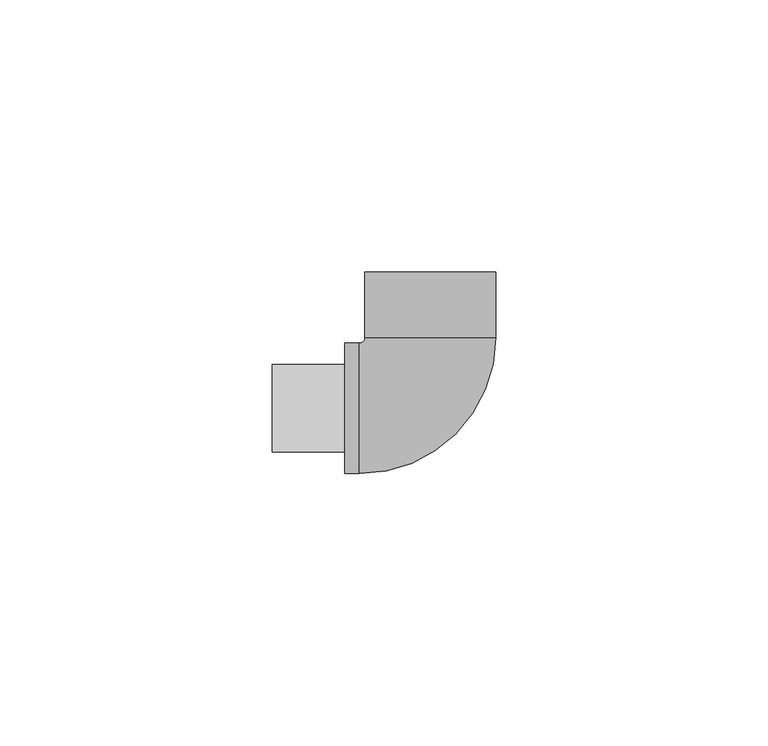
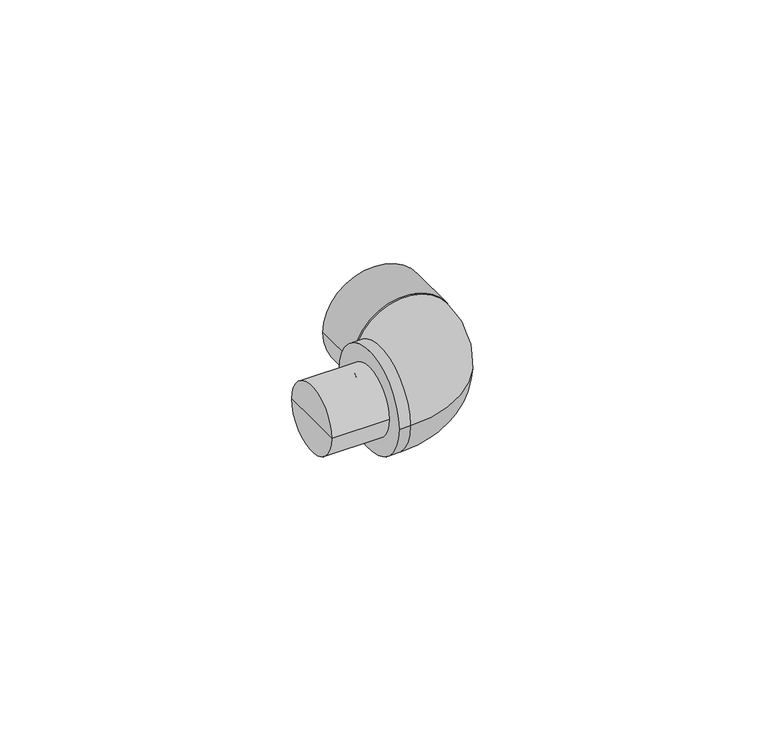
"""IFC4 building model written with IfcOpenShell, lengths in millimetres: pipe fitting geometry, KAN-therm PP kolano nyplowe 45,90 : KAN-therm PP kolano nyplowe 45,90."""

import ifcopenshell
import ifcopenshell.guid

model = None  # the IFC model being written
_history = None  # IfcOwnerHistory: only IFC2X3 demands one
_inside = {}  # id of a spatial element -> (the spatial element, [elements in it])
_under = {}  # id of a project, library or spatial element -> (it, [spatial elements below it])
_declared = {}  # id of a project -> (the project, [libraries it declares])
_typed = {}  # id of a type object -> (the type object, [elements of that type])
_made_of = {}  # id of a material, layer set ... -> (it, [elements and type objects made of it])


def new_model(schema):
    """Start an empty IFC model of exactly this schema.

    Asked for "IFC4X3", IfcOpenShell would pick the latest addendum, in which some entities
    have other attributes; the version numbers below select the first issue.
    IFC2X3 requires an IfcOwnerHistory on every rooted entity: one is made here for all.
    """
    global model, _history
    if schema == "IFC4X3":
        model = ifcopenshell.file(schema_version=(4, 3, 0, 0))
    else:
        model = ifcopenshell.file(schema=schema)
    _inside.clear()
    _under.clear()
    _declared.clear()
    _typed.clear()
    _made_of.clear()
    _history = None
    if model.schema == "IFC2X3":
        org = make("IfcOrganization", Name="unknown")
        user = make(
            "IfcPersonAndOrganization",
            ThePerson=make("IfcPerson", FamilyName="unknown"),
            TheOrganization=org,
        )
        app = make(
            "IfcApplication",
            ApplicationDeveloper=org,
            Version="unknown",
            ApplicationFullName="unknown",
            ApplicationIdentifier="unknown",
        )
        _history = make(
            "IfcOwnerHistory",
            OwningUser=user,
            OwningApplication=app,
            ChangeAction="ADDED",
            CreationDate=0,
        )
    return model


def make(cls, **values):
    """One entity of the class cls with the attributes given. An attribute that is None is left unset."""
    return model.create_entity(
        cls, **{name: value for name, value in values.items() if value is not None}
    )


def rooted(cls, **values):
    """An entity with a GlobalId (a new one), such as an element, a storey or a relation."""
    return make(cls, GlobalId=ifcopenshell.guid.new(), OwnerHistory=_history, **values)


def si_unit(unit_type, name, prefix=None):
    """IfcSIUnit, for example si_unit("LENGTHUNIT", "METRE", prefix="MILLI")."""
    return make("IfcSIUnit", UnitType=unit_type, Prefix=prefix, Name=name)


def assignment(units):
    """IfcUnitAssignment: the units of a project."""
    return None if units is None else make("IfcUnitAssignment", Units=units)


def point(xyz):
    """IfcCartesianPoint."""
    return None if xyz is None else make("IfcCartesianPoint", Coordinates=xyz)


def direction(xyz):
    """IfcDirection."""
    return None if xyz is None else make("IfcDirection", DirectionRatios=xyz)


def frame(location, z_axis=None, x_axis=None):
    """IfcAxis2Placement3D, a coordinate frame: its origin and axes. An axis left out is left unset."""
    return make(
        "IfcAxis2Placement3D",
        Location=point(location),
        Axis=direction(z_axis),
        RefDirection=direction(x_axis),
    )


def origin():
    """The frame at (0, 0, 0) with its axes left unset."""
    return frame((0.0, 0.0, 0.0))


def place(relative_to, where):
    """IfcLocalPlacement: puts the frame where relative to a parent placement (None: the world)."""
    return make(
        "IfcLocalPlacement", PlacementRelTo=relative_to, RelativePlacement=where
    )


def context(
    kind, dimensions, precision=None, world=None, true_north=None, identifier=None
):
    """IfcGeometricRepresentationContext, for example the 3D "Model" context."""
    return make(
        "IfcGeometricRepresentationContext",
        ContextIdentifier=identifier,
        ContextType=kind,
        CoordinateSpaceDimension=dimensions,
        Precision=precision,
        WorldCoordinateSystem=world,
        TrueNorth=true_north,
    )


def project(units=None, contexts=None):
    """IfcProject with its units and contexts."""
    return rooted(
        "IfcProject",
        Name="project",
        RepresentationContexts=contexts,
        UnitsInContext=assignment(units),
    )


def spatial(cls, under=None, at=None, **own):
    """A site, building, storey or space (cls), placed at a placement, below another one or the project."""
    s = rooted(cls, ObjectPlacement=at, **own)
    if under is not None:
        _under.setdefault(under.id(), (under, []))[1].append(s)
    return s


def circle_curve(where, radius):
    """IfcCircle in the frame where."""
    return make("IfcCircle", Position=where, Radius=radius)


def ellipse_curve(where, semi_axis1, semi_axis2):
    """IfcEllipse in the frame where."""
    return make(
        "IfcEllipse", Position=where, SemiAxis1=semi_axis1, SemiAxis2=semi_axis2
    )


def trimmed(basis, trim1, trim2, sense, master):
    """IfcTrimmedCurve: the piece of a basis curve between two trims."""
    return make(
        "IfcTrimmedCurve",
        BasisCurve=basis,
        Trim1=trim1,
        Trim2=trim2,
        SenseAgreement=sense,
        MasterRepresentation=master,
    )


def shape(context_of_items, identifier, shape_type, items):
    """IfcShapeRepresentation: the items that make up one representation, for example the "Body"."""
    return make(
        "IfcShapeRepresentation",
        ContextOfItems=context_of_items,
        RepresentationIdentifier=identifier,
        RepresentationType=shape_type,
        Items=items,
    )


def source(mapping_origin, context_of_items, identifier, shape_type, items):
    """IfcRepresentationMap: a shape defined once, which mapped items show again and again."""
    return make(
        "IfcRepresentationMap",
        MappingOrigin=mapping_origin,
        MappedRepresentation=shape(context_of_items, identifier, shape_type, items),
    )


def transform(
    local_origin,
    x_axis=None,
    y_axis=None,
    z_axis=None,
    scale=None,
    scale2=None,
    scale3=None,
    uniform=True,
):
    """IfcCartesianTransformationOperator3D, or its non-uniform kind. x_axis, y_axis, z_axis: its Axis1, 2, 3."""
    if uniform:
        return make(
            "IfcCartesianTransformationOperator3D",
            Axis1=direction(x_axis),
            Axis2=direction(y_axis),
            LocalOrigin=point(local_origin),
            Scale=scale,
            Axis3=direction(z_axis),
        )
    return make(
        "IfcCartesianTransformationOperator3DnonUniform",
        Axis1=direction(x_axis),
        Axis2=direction(y_axis),
        LocalOrigin=point(local_origin),
        Scale=scale,
        Axis3=direction(z_axis),
        Scale2=scale2,
        Scale3=scale3,
    )


def mapped(mapping_source, mapping_target):
    """IfcMappedItem: shows the shape of a source again, moved by a transform."""
    return make(
        "IfcMappedItem", MappingSource=mapping_source, MappingTarget=mapping_target
    )


def made_of(thing, what):
    """Note that an element or type object is made of a material, layer set ...; save() writes the relation."""
    if what is not None:
        _made_of.setdefault(what.id(), (what, []))[1].append(thing)
    return thing


def element(
    cls,
    number,
    at=None,
    inside=None,
    cuts=None,
    type_object=None,
    material=None,
    context=None,
    identifier="Body",
    shape_type=None,
    held_by="IfcProductDefinitionShape",
    body=None,
    shapes=None,
    **own,
):
    """One element of the class cls, such as IfcWall. Its Tag is "e" and its number.

    at: its placement. inside: the storey or other place that contains it. cuts: it is an
    opening in that element (IfcRelVoidsElement). A single representation is given by context,
    identifier, shape_type and body (its items); several are given by shapes. held_by: the class
    of the entity that holds the representations. save() writes the other relations.
    """
    e = rooted(cls, Tag="e%d" % number, ObjectPlacement=at, **own)
    if body is not None:
        shapes = [shape(context, identifier, shape_type, body)]
    if shapes is not None:
        e.Representation = make(held_by, Representations=shapes)
    if inside is not None:
        _inside.setdefault(inside.id(), (inside, []))[1].append(e)
    if cuts is not None:
        rooted(
            "IfcRelVoidsElement", RelatingBuildingElement=cuts, RelatedOpeningElement=e
        )
    if type_object is not None:
        _typed.setdefault(type_object.id(), (type_object, []))[1].append(e)
    return made_of(e, material)


def aggregate(whole, parts):
    """IfcRelAggregates: a whole, such as a stair, and the parts it consists of."""
    return rooted("IfcRelAggregates", RelatingObject=whole, RelatedObjects=parts)


def save(model, path):
    """Write the relations noted so far, then the file.

    IfcRelAggregates (storeys below a building ...), IfcRelContainedInSpatialStructure (elements
    in a storey), IfcRelDefinesByType, IfcRelAssociatesMaterial and IfcRelDeclares: one each for
    every whole, place, type object, material and project.
    """
    for whole, parts in _under.values():
        aggregate(whole, parts)
    for where, things in _inside.values():
        rooted(
            "IfcRelContainedInSpatialStructure",
            RelatedElements=things,
            RelatingStructure=where,
        )
    for kind, things in _typed.values():
        rooted("IfcRelDefinesByType", RelatedObjects=things, RelatingType=kind)
    for what, things in _made_of.values():
        rooted("IfcRelAssociatesMaterial", RelatedObjects=things, RelatingMaterial=what)
    for by, libraries in _declared.values():
        rooted("IfcRelDeclares", RelatingContext=by, RelatedDefinitions=libraries)
    model.write(path)


def plane_surface(at):
    """IfcPlane: the flat surface through the origin of the frame at, square to its z axis."""
    return make("IfcPlane", Position=at)


def cylinder_surface(at, radius):
    """IfcCylindricalSurface: all points at the distance radius from the z axis of the frame at."""
    return make("IfcCylindricalSurface", Position=at, Radius=radius)


def revolved_surface(curve, axis_point, axis_direction):
    """IfcSurfaceOfRevolution: the curve turned about the line through axis_point along axis_direction."""
    return make(
        "IfcSurfaceOfRevolution",
        SweptCurve=make("IfcArbitraryOpenProfileDef", ProfileType="CURVE", Curve=curve),
        AxisPosition=make("IfcAxis1Placement", Location=point(axis_point), Axis=direction(axis_direction)),
    )


def advanced_brep(points, edges, surfaces, faces):
    """IfcAdvancedBrep: a solid bounded by faces that lie on surfaces and meet in shared edges.

    An edge is (start, end): straight between two places in points (the first is 0);
    or (start, end, curve); or (start, end, curve, False) where it runs against its curve.
    A face is (place in surfaces, loops), or (place, loops, False) where it looks against
    its surface's normal. A loop lists edges by number (the first is 1), with a minus sign
    where the edge is run from its end to its start. The first loop is the outer one.
    """
    corners = [point(p) for p in points]
    vertices = [make("IfcVertexPoint", VertexGeometry=c) for c in corners]
    made = []
    for start, end, *more in edges:
        made.append(
            make(
                "IfcEdgeCurve",
                EdgeStart=vertices[start],
                EdgeEnd=vertices[end],
                EdgeGeometry=more[0] if more else make("IfcPolyline", Points=[corners[start], corners[end]]),
                SameSense=more[1] if len(more) > 1 else True,
            )
        )
    hull = []
    for where, loops, *sense in faces:
        bounds = []
        for j, loop in enumerate(loops):
            ring = [make("IfcOrientedEdge", EdgeElement=made[abs(k) - 1], Orientation=k > 0) for k in loop]
            bounds.append(
                make(
                    "IfcFaceOuterBound" if j == 0 else "IfcFaceBound",
                    Bound=make("IfcEdgeLoop", EdgeList=ring),
                    Orientation=True,
                )
            )
        hull.append(make("IfcAdvancedFace", Bounds=bounds, FaceSurface=surfaces[where], SameSense=sense[0] if sense else True))
    return make("IfcAdvancedBrep", Outer=make("IfcClosedShell", CfsFaces=hull))


def pipe_fitting_1866e0d2(model_context):
    return source(origin(), model_context, "Body", "AdvancedBrep", [
        advanced_brep(
        [(-29.0, 8.0, 0.0), (-29.0, -8.0, 0.0), (-29.0, 0.0, 0.0), (-15.7, 8.0, 0.0), (-15.7, -8.0, 0.0), (-15.7, 0.0, 0.0)],
        [
            (0, 1, circle_curve(frame((-29.0, 0.0, 0.0), z_axis=(-1.0, 0.0, 0.0), x_axis=(0.0, -1.0, 0.0)), 8.0)),
            (1, 2),
            (2, 0),
            (1, 0, circle_curve(frame((-29.0, 0.0, 0.0), z_axis=(-1.0, 0.0, 0.0), x_axis=(0.0, -1.0, 0.0)), 8.0)),
            (3, 4, circle_curve(frame((-15.7, 0.0, 0.0), z_axis=(-1.0, 0.0, 0.0), x_axis=(0.0, -1.0, 0.0)), 8.0)),
            (4, 1),
            (0, 3),
            (4, 3, circle_curve(frame((-15.7, 0.0, 0.0), z_axis=(-1.0, 0.0, 0.0), x_axis=(0.0, -1.0, 0.0)), 8.0)),
            (5, 4),
            (3, 5),
        ],
        [
            plane_surface(frame((-29.0, 0.0, 0.0), z_axis=(-1.0, 0.0, 0.0), x_axis=(0.0, -1.0, 0.0))),
            cylinder_surface(frame((2000.0, 0.0, 0.0), z_axis=(1.0, 0.0, 0.0), x_axis=(0.0, -1.0, 0.0)), 8.0),
            plane_surface(frame((-15.7, 0.0, 0.0), z_axis=(1.0, 0.0, 0.0), x_axis=(0.0, -1.0, 0.0))),
        ],
        [
            (0, [[1, 2, 3]]),
            (0, [[4, -3, -2]]),
            (1, [[5, 6, -1, 7]]),
            (1, [[8, -7, -4, -6]]),
            (2, [[9, -5, 10]]),
            (2, [[-10, -8, -9]]),
        ],
    ),
        advanced_brep(
        [(-12.0, 13.0, 0.0), (12.0, 13.0, 0.0), (0.0, 13.0, 0.0), (-12.0, 25.0, 0.0), (12.0, 25.0, 0.0), (0.0, 25.0, 0.0)],
        [
            (0, 1, circle_curve(frame((0.0, 13.0, 0.0), z_axis=(0.0, -1.0, 0.0), x_axis=(1.0, 0.0, 0.0)), 12.0)),
            (1, 2),
            (2, 0),
            (1, 0, circle_curve(frame((0.0, 13.0, 0.0), z_axis=(0.0, -1.0, 0.0), x_axis=(1.0, 0.0, 0.0)), 12.0)),
            (3, 4, circle_curve(frame((0.0, 25.0, 0.0), z_axis=(0.0, -1.0, 0.0), x_axis=(1.0, 0.0, 0.0)), 12.0)),
            (4, 1),
            (0, 3),
            (4, 3, circle_curve(frame((0.0, 25.0, 0.0), z_axis=(0.0, -1.0, 0.0), x_axis=(1.0, 0.0, 0.0)), 12.0)),
            (5, 4),
            (3, 5),
        ],
        [
            plane_surface(frame((0.0, 13.0, 0.0), z_axis=(0.0, -1.0, 0.0), x_axis=(1.0, 0.0, 0.0))),
            cylinder_surface(frame((0.0, 0.0, 0.0), z_axis=(0.0, 1.0, 0.0), x_axis=(1.0, 0.0, 0.0)), 12.0),
            plane_surface(frame((0.0, 25.0, 0.0), z_axis=(0.0, 1.0, 0.0), x_axis=(1.0, 0.0, 0.0))),
        ],
        [
            (0, [[1, 2, 3]]),
            (0, [[4, -3, -2]]),
            (1, [[5, 6, -1, 7]]),
            (1, [[8, -7, -4, -6]]),
            (2, [[9, -5, 10]]),
            (2, [[-10, -8, -9]]),
        ],
    ),
        advanced_brep(
        [(12.0, 13.0, 0.0), (-12.0, 13.0, 0.0), (-13.0, 12.0, 0.0), (-13.0, -12.0, 0.0), (-15.7, -12.0, 0.0), (-15.7, 12.0, 0.0)],
        [
            (0, 1, circle_curve(frame((0.0, 13.0, 0.0), z_axis=(0.0, 1.0, 0.0), x_axis=(-1.0, 0.0, 0.0)), 12.0)),
            (1, 0, circle_curve(frame((0.0, 13.0, 0.0), z_axis=(0.0, 1.0, 0.0), x_axis=(-1.0, 0.0, 0.0)), 12.0)),
            (1, 2, circle_curve(frame((-13.0, 13.0, 0.0), z_axis=(0.0, 0.0, -1.0), x_axis=(0.0, -1.0, 0.0)), 1.0)),
            (2, 3, circle_curve(frame((-13.0, 0.0, 0.0), z_axis=(1.0, 0.0, 0.0), x_axis=(0.0, 1.0, 0.0)), 12.0)),
            (3, 0, circle_curve(frame((-13.0, 13.0, 0.0), z_axis=(0.0, 0.0, 1.0), x_axis=(0.0, -1.0, 0.0)), 25.0)),
            (3, 2, circle_curve(frame((-13.0, 0.0, 0.0), z_axis=(1.0, 0.0, 0.0), x_axis=(0.0, 1.0, 0.0)), 12.0)),
            (4, 5, circle_curve(frame((-15.7, 0.0, 0.0), z_axis=(-1.0, 0.0, 0.0), x_axis=(0.0, 1.0, 0.0)), 12.0)),
            (5, 4, circle_curve(frame((-15.7, 0.0, 0.0), z_axis=(-1.0, 0.0, 0.0), x_axis=(0.0, 1.0, 0.0)), 12.0)),
            (4, 3),
            (2, 5),
        ],
        [
            plane_surface(frame((0.0, 13.0, 0.0), z_axis=(0.0, 1.0, 0.0), x_axis=(0.0, 0.0, 1.0))),
            revolved_surface(trimmed(ellipse_curve(frame((-13.0, 0.0, 0.0), z_axis=(-1.0, 0.0, 0.0), x_axis=(0.0, 1.0, 0.0)), 12.0, 12.0), [point((-13.0, -12.0, 0.0))], [point((-13.0, 12.0, 0.0))], True, "CARTESIAN"), (-13.0, 13.0, 0.0), (0.0, 0.0, 1.0)),
            revolved_surface(trimmed(ellipse_curve(frame((-13.0, 0.0, 0.0), z_axis=(-1.0, 0.0, 0.0), x_axis=(0.0, 1.0, 0.0)), 12.0, 12.0), [point((-13.0, 12.0, 0.0))], [point((-13.0, -12.0, 0.0))], True, "CARTESIAN"), (-13.0, 13.0, 0.0), (0.0, 0.0, 1.0)),
            plane_surface(frame((-15.7, 0.0, 0.0), z_axis=(-1.0, 0.0, 0.0), x_axis=(0.0, 0.0, 1.0))),
            cylinder_surface(frame((-15.7, 0.0, 0.0), z_axis=(-1.0, 0.0, 0.0), x_axis=(0.0, 1.0, 0.0)), 12.0),
        ],
        [
            (0, [[1, 2]]),
            (1, [[3, 4, 5, -2]]),
            (2, [[-5, 6, -3, -1]]),
            (3, [[7, 8]]),
            (4, [[-7, 9, -4, 10]]),
            (4, [[-8, -10, -6, -9]]),
        ],
    ),
    ])


if __name__ == "__main__":
    model = new_model("IFC4")
    model_context = context("Model", 3, world=origin())
    ifc_project = project(units=[si_unit("LENGTHUNIT", "METRE", prefix="MILLI")], contexts=[model_context])
    site = spatial("IfcSite", under=ifc_project)
    building = spatial("IfcBuilding", under=site)
    placement = place(None, origin())
    pipe_fitting_shape = pipe_fitting_1866e0d2(model_context)
    element("IfcPipeFitting", 1, ObjectType="KAN-therm PP kolano nyplowe 45,90 : KAN-therm PP kolano nyplowe 45,90", at=placement, inside=building, context=model_context, shape_type="MappedRepresentation", body=[
        mapped(pipe_fitting_shape, transform((0.0, 0.0, 0.0), x_axis=(1.0, 0.0, 0.0), y_axis=(0.0, 1.0, 0.0), z_axis=(0.0, 0.0, 1.0))),
    ])
    save(model, "model.ifc")
